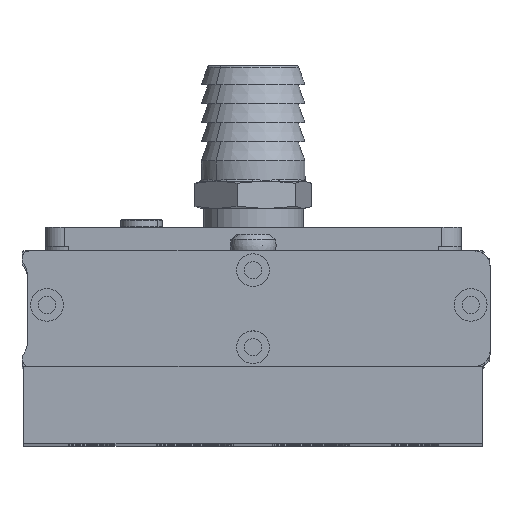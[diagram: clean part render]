
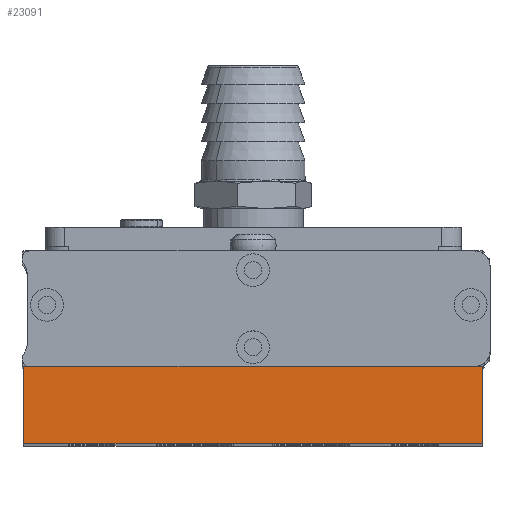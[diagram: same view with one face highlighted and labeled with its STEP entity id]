
A CAD part, top view. The second image highlights one B-rep face of the part: STEP entity #23091.
In plain terms, the highlighted planar face has unit normal (0, 0, 1).
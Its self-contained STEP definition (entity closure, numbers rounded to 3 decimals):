
#1286 = DIRECTION ( 'NONE',  ( 1., 0., 0. ) ) ;
#2418 = VERTEX_POINT ( 'NONE', #21990 ) ;
#2573 = CARTESIAN_POINT ( 'NONE',  ( -82.6, -51.3, 202. ) ) ;
#2579 = CARTESIAN_POINT ( 'NONE',  ( -82.6, -51.3, 202. ) ) ;
#2699 = EDGE_LOOP ( 'NONE', ( #9721, #15207, #28242, #4545 ) ) ;
#3317 = VECTOR ( 'NONE', #15540, 1000. ) ;
#4545 = ORIENTED_EDGE ( 'NONE', *, *, #19495, .T. ) ;
#4717 = LINE ( 'NONE', #25667, #10140 ) ;
#5966 = AXIS2_PLACEMENT_3D ( 'NONE', #26847, #7296, #14889 ) ;
#6101 = FACE_OUTER_BOUND ( 'NONE', #2699, .T. ) ;
#7296 = DIRECTION ( 'NONE',  ( 0., 0., -1. ) ) ;
#7948 = CARTESIAN_POINT ( 'NONE',  ( 36.4, -51.3, 202. ) ) ;
#9328 = VERTEX_POINT ( 'NONE', #7948 ) ;
#9721 = ORIENTED_EDGE ( 'NONE', *, *, #31627, .T. ) ;
#10140 = VECTOR ( 'NONE', #1286, 1000. ) ;
#13745 = LINE ( 'NONE', #19391, #29450 ) ;
#14097 = LINE ( 'NONE', #30144, #3317 ) ;
#14755 = CARTESIAN_POINT ( 'NONE',  ( 36.4, -71.3, 202. ) ) ;
#14889 = DIRECTION ( 'NONE',  ( 0., 1., 0. ) ) ;
#15081 = VECTOR ( 'NONE', #17643, 1000. ) ;
#15207 = ORIENTED_EDGE ( 'NONE', *, *, #19220, .F. ) ;
#15540 = DIRECTION ( 'NONE',  ( 0., -1., 0. ) ) ;
#17278 = DIRECTION ( 'NONE',  ( 0., -1., 0. ) ) ;
#17314 = EDGE_CURVE ( 'NONE', #19854, #9328, #23109, .T. ) ;
#17643 = DIRECTION ( 'NONE',  ( 1., 0., 0. ) ) ;
#19220 = EDGE_CURVE ( 'NONE', #9328, #24166, #13745, .T. ) ;
#19391 = CARTESIAN_POINT ( 'NONE',  ( 36.4, -51.3, 202. ) ) ;
#19495 = EDGE_CURVE ( 'NONE', #19854, #2418, #14097, .T. ) ;
#19854 = VERTEX_POINT ( 'NONE', #2579 ) ;
#21990 = CARTESIAN_POINT ( 'NONE',  ( -82.6, -71.3, 202. ) ) ;
#23091 = ADVANCED_FACE ( 'NONE', ( #6101 ), #31845, .F. ) ;
#23109 = LINE ( 'NONE', #2573, #15081 ) ;
#24166 = VERTEX_POINT ( 'NONE', #14755 ) ;
#25667 = CARTESIAN_POINT ( 'NONE',  ( -82.6, -71.3, 202. ) ) ;
#26847 = CARTESIAN_POINT ( 'NONE',  ( -82.6, -51.3, 202. ) ) ;
#28242 = ORIENTED_EDGE ( 'NONE', *, *, #17314, .F. ) ;
#29450 = VECTOR ( 'NONE', #17278, 1000. ) ;
#30144 = CARTESIAN_POINT ( 'NONE',  ( -82.6, -51.3, 202. ) ) ;
#31627 = EDGE_CURVE ( 'NONE', #2418, #24166, #4717, .T. ) ;
#31845 = PLANE ( 'NONE',  #5966 ) ;
